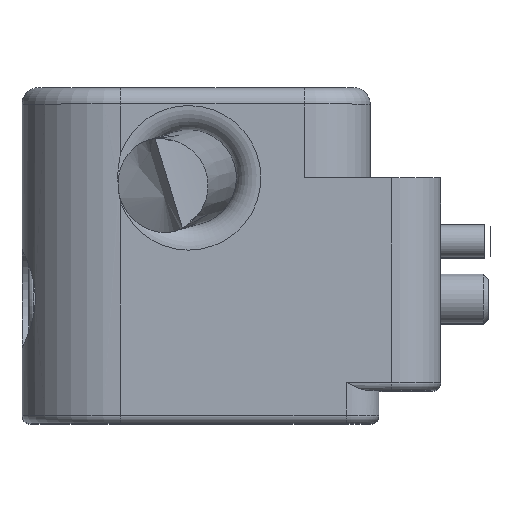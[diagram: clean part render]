
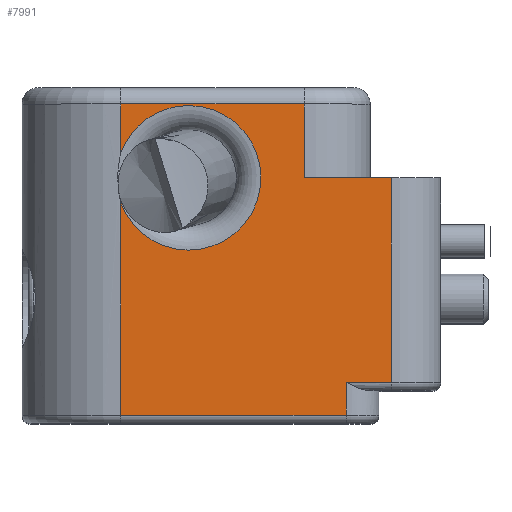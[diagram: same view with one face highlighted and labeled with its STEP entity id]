
A CAD part, top view. The second image highlights one B-rep face of the part: STEP entity #7991.
In plain terms, the highlighted planar face has unit normal (0, 0, 1).
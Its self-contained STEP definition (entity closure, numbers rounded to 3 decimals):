
#404=PLANE('',#8885);
#960=FACE_OUTER_BOUND('',#1460,.T.);
#1460=EDGE_LOOP('',(#6637,#6638,#6639,#6640,#6641,#6642,#6643,#6644,#6645,
#6646,#6647));
#1942=LINE('',#14542,#2447);
#1944=LINE('',#14547,#2449);
#1950=LINE('',#14562,#2455);
#1971=LINE('',#14693,#2476);
#1973=LINE('',#14699,#2478);
#1974=LINE('',#14700,#2479);
#1975=LINE('',#14702,#2480);
#1976=LINE('',#14708,#2481);
#1977=LINE('',#14709,#2482);
#2447=VECTOR('',#10896,10.);
#2449=VECTOR('',#10902,10.);
#2455=VECTOR('',#10918,10.);
#2476=VECTOR('',#11005,10.);
#2478=VECTOR('',#11011,10.);
#2479=VECTOR('',#11012,3.);
#2480=VECTOR('',#11013,10.);
#2481=VECTOR('',#11018,10.);
#2482=VECTOR('',#11019,10.);
#3024=CIRCLE('',#8886,4.4);
#3025=CIRCLE('',#8887,4.4);
#3625=VERTEX_POINT('',#14472);
#3641=VERTEX_POINT('',#14537);
#3642=VERTEX_POINT('',#14546);
#3646=VERTEX_POINT('',#14561);
#3686=VERTEX_POINT('',#14671);
#3687=VERTEX_POINT('',#14675);
#3690=VERTEX_POINT('',#14698);
#3691=VERTEX_POINT('',#14701);
#3692=VERTEX_POINT('',#14703);
#3693=VERTEX_POINT('',#14705);
#3694=VERTEX_POINT('',#14707);
#4654=EDGE_CURVE('',#3625,#3641,#1942,.T.);
#4656=EDGE_CURVE('',#3641,#3642,#1944,.T.);
#4664=EDGE_CURVE('',#3646,#3642,#1950,.T.);
#4713=EDGE_CURVE('',#3687,#3686,#1971,.T.);
#4716=EDGE_CURVE('',#3687,#3690,#1973,.T.);
#4717=EDGE_CURVE('',#3646,#3690,#1974,.T.);
#4718=EDGE_CURVE('',#3691,#3625,#1975,.T.);
#4719=EDGE_CURVE('',#3692,#3691,#3024,.T.);
#4720=EDGE_CURVE('',#3693,#3692,#3025,.T.);
#4721=EDGE_CURVE('',#3694,#3693,#1976,.T.);
#4722=EDGE_CURVE('',#3686,#3694,#1977,.T.);
#6637=ORIENTED_EDGE('',*,*,#4713,.F.);
#6638=ORIENTED_EDGE('',*,*,#4716,.T.);
#6639=ORIENTED_EDGE('',*,*,#4717,.F.);
#6640=ORIENTED_EDGE('',*,*,#4664,.T.);
#6641=ORIENTED_EDGE('',*,*,#4656,.F.);
#6642=ORIENTED_EDGE('',*,*,#4654,.F.);
#6643=ORIENTED_EDGE('',*,*,#4718,.F.);
#6644=ORIENTED_EDGE('',*,*,#4719,.F.);
#6645=ORIENTED_EDGE('',*,*,#4720,.F.);
#6646=ORIENTED_EDGE('',*,*,#4721,.F.);
#6647=ORIENTED_EDGE('',*,*,#4722,.F.);
#7991=ADVANCED_FACE('',(#960),#404,.T.);
#8885=AXIS2_PLACEMENT_3D('',#14697,#11009,#11010);
#8886=AXIS2_PLACEMENT_3D('',#14704,#11014,#11015);
#8887=AXIS2_PLACEMENT_3D('',#14706,#11016,#11017);
#10896=DIRECTION('',(1.,0.,0.));
#10902=DIRECTION('',(0.,-1.,0.));
#10918=DIRECTION('',(-1.,0.,0.));
#11005=DIRECTION('',(0.,-1.,0.));
#11009=DIRECTION('center_axis',(0.,0.,
1.));
#11010=DIRECTION('ref_axis',(0.,1.,0.));
#11011=DIRECTION('',(1.,0.,0.));
#11012=DIRECTION('',(0.,-1.,0.));
#11013=DIRECTION('',(0.,1.,0.));
#11014=DIRECTION('center_axis',(0.,0.,
1.));
#11015=DIRECTION('ref_axis',(0.,1.,0.));
#11016=DIRECTION('center_axis',(0.,0.,
1.));
#11017=DIRECTION('ref_axis',(0.,1.,0.));
#11018=DIRECTION('',(0.,1.,0.));
#11019=DIRECTION('',(-1.,0.,0.));
#14472=CARTESIAN_POINT('',(-5.05,28.6,19.));
#14537=CARTESIAN_POINT('',(6.15,28.6,19.));
#14542=CARTESIAN_POINT('',(-5.75,28.6,19.));
#14546=CARTESIAN_POINT('',(6.15,24.1,19.));
#14547=CARTESIAN_POINT('',(6.15,29.6,19.));
#14561=CARTESIAN_POINT('',(11.45,24.1,19.));
#14562=CARTESIAN_POINT('',(14.45,24.1,19.));
#14671=CARTESIAN_POINT('',(8.69,9.65,19.));
#14675=CARTESIAN_POINT('',(8.69,11.65,19.));
#14693=CARTESIAN_POINT('',(8.69,9.15,19.));
#14697=CARTESIAN_POINT('Origin',(-11.05,24.1,19.));
#14698=CARTESIAN_POINT('',(11.45,11.65,19.));
#14699=CARTESIAN_POINT('',(14.771,11.65,19.));
#14700=CARTESIAN_POINT('',(11.45,24.1,19.));
#14701=CARTESIAN_POINT('',(-5.05,25.562,19.));
#14702=CARTESIAN_POINT('',(-5.05,29.6,19.));
#14703=CARTESIAN_POINT('',(-0.9,28.5,19.));
#14704=CARTESIAN_POINT('Origin',(-0.9,24.1,19.));
#14705=CARTESIAN_POINT('',(-5.05,22.638,19.));
#14706=CARTESIAN_POINT('Origin',(-0.9,24.1,19.));
#14707=CARTESIAN_POINT('',(-5.05,9.65,19.));
#14708=CARTESIAN_POINT('',(-5.05,24.1,19.));
#14709=CARTESIAN_POINT('',(-4.675,9.65,19.));
